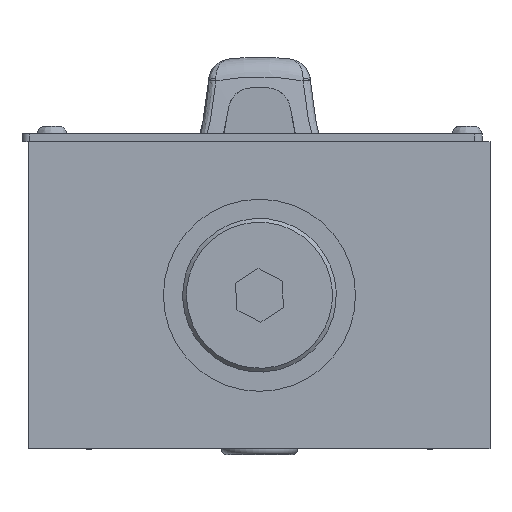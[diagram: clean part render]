
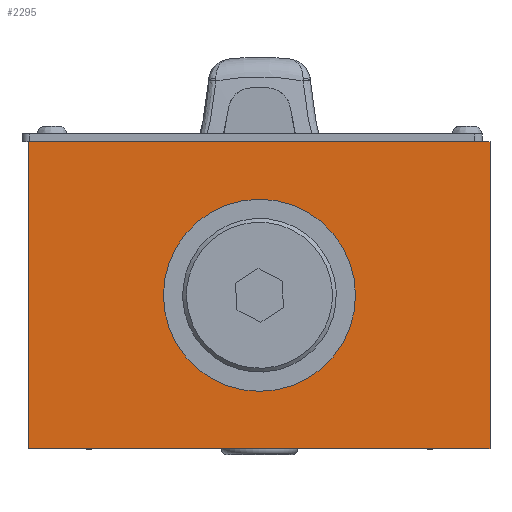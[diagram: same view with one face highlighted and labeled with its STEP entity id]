
A CAD part, front view. The second image highlights one B-rep face of the part: STEP entity #2295.
In plain terms, the highlighted planar face has unit normal (0, -1, 0).
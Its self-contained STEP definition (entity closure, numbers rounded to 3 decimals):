
#120=LINE('',#17115,#526);
#136=LINE('',#17191,#542);
#137=LINE('',#17195,#543);
#138=LINE('',#17197,#544);
#526=VECTOR('',#10305,1.);
#542=VECTOR('',#10341,1.);
#543=VECTOR('',#10346,1.);
#544=VECTOR('',#10347,1.);
#2295=ADVANCED_FACE('',(#3225,#3226),#2849,.T.);
#2849=PLANE('',#9211);
#3225=FACE_BOUND('',#3683,.T.);
#3226=FACE_BOUND('',#3684,.T.);
#3683=EDGE_LOOP('',(#4608));
#3684=EDGE_LOOP('',(#4609,#4610,#4611,#4612));
#4608=ORIENTED_EDGE('',*,*,#7657,.F.);
#4609=ORIENTED_EDGE('',*,*,#7658,.F.);
#4610=ORIENTED_EDGE('',*,*,#7656,.F.);
#4611=ORIENTED_EDGE('',*,*,#7628,.T.);
#4612=ORIENTED_EDGE('',*,*,#7659,.T.);
#6806=VERTEX_POINT('',#17110);
#6808=VERTEX_POINT('',#17114);
#6834=VERTEX_POINT('',#17190);
#6835=VERTEX_POINT('',#17194);
#6836=VERTEX_POINT('',#17196);
#7628=EDGE_CURVE('',#6806,#6808,#120,.T.);
#7656=EDGE_CURVE('',#6806,#6834,#136,.T.);
#7657=EDGE_CURVE('',#6835,#6835,#8757,.T.);
#7658=EDGE_CURVE('',#6834,#6836,#137,.T.);
#7659=EDGE_CURVE('',#6808,#6836,#138,.T.);
#8757=CIRCLE('',#9210,12.5);
#9210=AXIS2_PLACEMENT_3D('',#17193,#10344,#10345);
#9211=AXIS2_PLACEMENT_3D('',#17198,#10348,#10349);
#10305=DIRECTION('',(0.,0.,1.));
#10341=DIRECTION('',(-1.,0.,0.));
#10344=DIRECTION('',(0.,-1.,0.));
#10345=DIRECTION('',(1.,0.,0.));
#10346=DIRECTION('',(0.,0.,1.));
#10347=DIRECTION('',(-1.,0.,0.));
#10348=DIRECTION('',(0.,-1.,0.));
#10349=DIRECTION('',(-1.,0.,0.));
#17110=CARTESIAN_POINT('',(37.801,-78.308,-20.));
#17114=CARTESIAN_POINT('',(37.801,-78.308,20.));
#17115=CARTESIAN_POINT('',(37.801,-78.308,-20.));
#17190=CARTESIAN_POINT('',(-22.199,-78.308,-20.));
#17191=CARTESIAN_POINT('',(37.801,-78.308,-20.));
#17193=CARTESIAN_POINT('',(7.801,-78.308,0.));
#17194=CARTESIAN_POINT('',(20.301,-78.308,0.));
#17195=CARTESIAN_POINT('',(-22.199,-78.308,-20.));
#17196=CARTESIAN_POINT('',(-22.199,-78.308,20.));
#17197=CARTESIAN_POINT('',(37.801,-78.308,20.));
#17198=CARTESIAN_POINT('',(37.801,-78.308,-20.));
